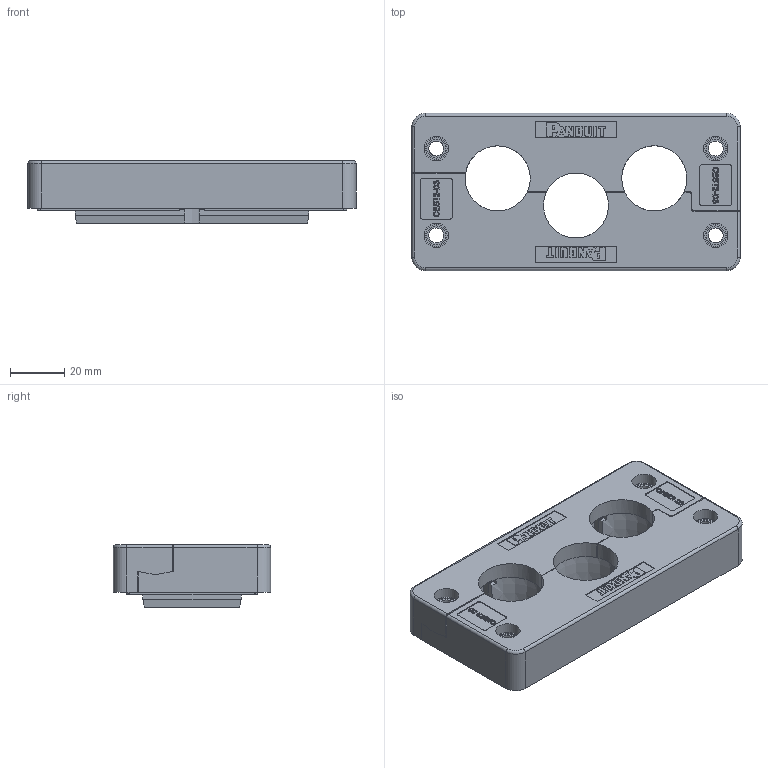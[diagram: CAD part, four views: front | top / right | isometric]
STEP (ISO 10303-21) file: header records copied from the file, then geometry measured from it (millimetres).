
FILE_DESCRIPTION(/* description */ (''),/* implementation_level */ '2;1');
FILE_NAME(/* name */ 'H:\SapWorkDir\Inventor\MP1\ConvertTempPath\87_11_121464_00_A_220620_KDL-D 16-3 ZSB.stp',/* time_stamp */ '2022-06-20T11:09:39+02:00',/* author */ ('BAUER'),/* organization */ (''),/* preprocessor_version */ 'ST-DEVELOPER v16.13',/* originating_system */ 'Autodesk Inventor 2018',/* authorisation */ '');
FILE_SCHEMA (('AUTOMOTIVE_DESIGN { 1 0 10303 214 3 1 1 }'));
Length unit declared in the file: millimetre
Products named in the file (4): 121464; KDB-16; 121411; 121413
Assembly tree (3 placements, depth 2):
  121464
    KDB-16
    121411
    121413
Bounding box: 121 x 58 x 23 mm (x, y, z)
Volume: 93465.6 mm3; surface area: 46741 mm2
Topology: 3 solids, 3 shells, 1054 faces, 2772 edges, 1787 vertices
Faces by surface type: plane 603, bspline 209, cylinder 182, torus 30, sphere 18, cone 12
Full cylindrical faces by diameter (mm): 5 x4, 5.5 x10, 6 x2, 7 x4, 8 x4, 9 x4
Entity records: 33854 total; most frequent: CARTESIAN_POINT 8855, ORIENTED_EDGE 5440, DIRECTION 4559, EDGE_CURVE 2720, LINE 1813, VECTOR 1813, VERTEX_POINT 1781, AXIS2_PLACEMENT_3D 1373
